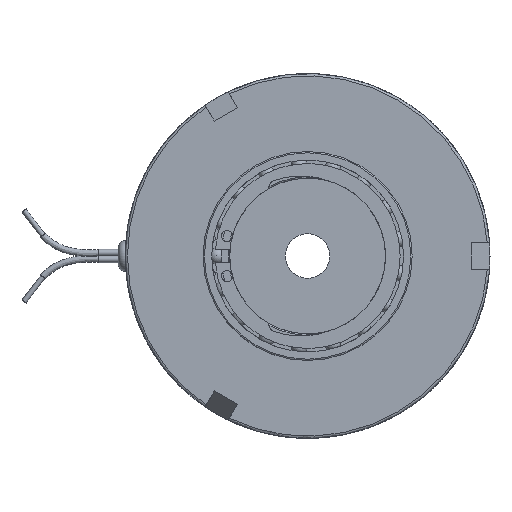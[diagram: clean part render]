
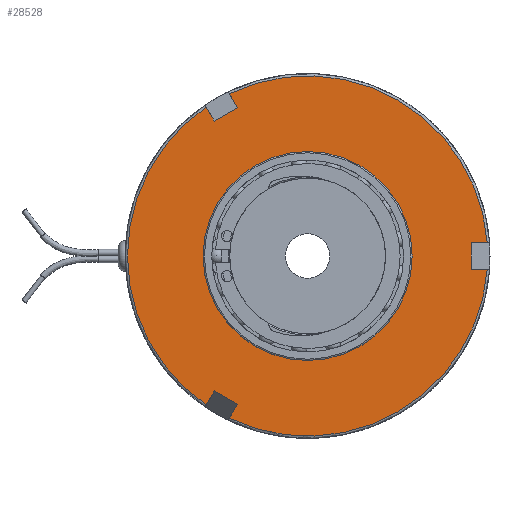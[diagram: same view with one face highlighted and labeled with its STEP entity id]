
A CAD part, left-side view. The second image highlights one B-rep face of the part: STEP entity #28528.
In plain terms, the highlighted planar face has unit normal (-1, 0, 0).
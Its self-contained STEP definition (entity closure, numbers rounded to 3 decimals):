
#1954=FACE_BOUND('',#6813,.T.);
#2197=LINE('',#46997,#3685);
#2198=LINE('',#47022,#3686);
#2201=LINE('',#47028,#3689);
#2204=LINE('',#47036,#3692);
#2205=LINE('',#47061,#3693);
#2208=LINE('',#47067,#3696);
#2209=LINE('',#47072,#3697);
#2210=LINE('',#47074,#3698);
#2211=LINE('',#47076,#3699);
#3685=VECTOR('',#34926,3.631);
#3686=VECTOR('',#34929,3.631);
#3689=VECTOR('',#34936,6.);
#3692=VECTOR('',#34941,3.631);
#3693=VECTOR('',#34944,3.631);
#3696=VECTOR('',#34951,6.);
#3697=VECTOR('',#34956,3.631);
#3698=VECTOR('',#34957,6.);
#3699=VECTOR('',#34958,3.631);
#5247=FACE_OUTER_BOUND('',#6812,.T.);
#6812=EDGE_LOOP('',(#17582,#17583,#17584,#17585,#17586,#17587,#17588,#17589,
#17590,#17591,#17592,#17593));
#6813=EDGE_LOOP('',(#17594));
#8519=CIRCLE('',#30158,23.5);
#8594=CIRCLE('',#30285,40.5);
#8595=CIRCLE('',#30286,40.5);
#8596=CIRCLE('',#30287,40.5);
#9744=VERTEX_POINT('',#46585);
#9806=VERTEX_POINT('',#46994);
#9807=VERTEX_POINT('',#46996);
#9808=VERTEX_POINT('',#47009);
#9810=VERTEX_POINT('',#47021);
#9814=VERTEX_POINT('',#47033);
#9815=VERTEX_POINT('',#47035);
#9816=VERTEX_POINT('',#47048);
#9818=VERTEX_POINT('',#47060);
#9820=VERTEX_POINT('',#47069);
#9821=VERTEX_POINT('',#47071);
#9822=VERTEX_POINT('',#47073);
#9823=VERTEX_POINT('',#47075);
#12728=EDGE_CURVE('',#9744,#9744,#8519,.T.);
#12838=EDGE_CURVE('',#9807,#9806,#2197,.T.);
#12841=EDGE_CURVE('',#9810,#9808,#2198,.T.);
#12845=EDGE_CURVE('',#9806,#9810,#2201,.T.);
#12848=EDGE_CURVE('',#9815,#9814,#2204,.T.);
#12851=EDGE_CURVE('',#9818,#9816,#2205,.T.);
#12855=EDGE_CURVE('',#9814,#9818,#2208,.T.);
#12856=EDGE_CURVE('',#9820,#9808,#8594,.T.);
#12857=EDGE_CURVE('',#9820,#9821,#2209,.T.);
#12858=EDGE_CURVE('',#9821,#9822,#2210,.T.);
#12859=EDGE_CURVE('',#9822,#9823,#2211,.T.);
#12860=EDGE_CURVE('',#9815,#9823,#8595,.T.);
#12861=EDGE_CURVE('',#9807,#9816,#8596,.T.);
#17582=ORIENTED_EDGE('',*,*,#12838,.T.);
#17583=ORIENTED_EDGE('',*,*,#12845,.T.);
#17584=ORIENTED_EDGE('',*,*,#12841,.T.);
#17585=ORIENTED_EDGE('',*,*,#12856,.F.);
#17586=ORIENTED_EDGE('',*,*,#12857,.T.);
#17587=ORIENTED_EDGE('',*,*,#12858,.T.);
#17588=ORIENTED_EDGE('',*,*,#12859,.T.);
#17589=ORIENTED_EDGE('',*,*,#12860,.F.);
#17590=ORIENTED_EDGE('',*,*,#12848,.T.);
#17591=ORIENTED_EDGE('',*,*,#12855,.T.);
#17592=ORIENTED_EDGE('',*,*,#12851,.T.);
#17593=ORIENTED_EDGE('',*,*,#12861,.F.);
#17594=ORIENTED_EDGE('',*,*,#12728,.F.);
#25609=PLANE('',#30284);
#28528=ADVANCED_FACE('',(#5247,#1954),#25609,.T.);
#30158=AXIS2_PLACEMENT_3D('',#46586,#34658,#34659);
#30284=AXIS2_PLACEMENT_3D('',#47068,#34952,#34953);
#30285=AXIS2_PLACEMENT_3D('',#47070,#34954,#34955);
#30286=AXIS2_PLACEMENT_3D('',#47077,#34959,#34960);
#30287=AXIS2_PLACEMENT_3D('',#47078,#34961,#34962);
#34658=DIRECTION('center_axis',(-1.,0.,0.));
#34659=DIRECTION('ref_axis',(0.,-1.,0.));
#34926=DIRECTION('',(0.,-0.5,0.866));
#34929=DIRECTION('',(0.,0.5,-0.866));
#34936=DIRECTION('',(0.,-0.866,-0.5));
#34941=DIRECTION('',(0.,-0.5,-0.866));
#34944=DIRECTION('',(0.,0.5,0.866));
#34951=DIRECTION('',(0.,0.866,-0.5));
#34952=DIRECTION('center_axis',(-1.,0.,0.));
#34953=DIRECTION('ref_axis',(0.,0.,-1.));
#34954=DIRECTION('center_axis',(1.,0.,0.));
#34955=DIRECTION('ref_axis',(0.,1.,0.));
#34956=DIRECTION('',(0.,1.,0.));
#34957=DIRECTION('',(0.,0.,1.));
#34958=DIRECTION('',(0.,-1.,0.));
#34959=DIRECTION('center_axis',(1.,0.,0.));
#34960=DIRECTION('ref_axis',(0.,1.,0.));
#34961=DIRECTION('center_axis',(1.,0.,0.));
#34962=DIRECTION('ref_axis',(0.,1.,0.));
#46585=CARTESIAN_POINT('',(-18.25,-23.5,0.));
#46586=CARTESIAN_POINT('Origin',(-18.25,0.,0.));
#46994=CARTESIAN_POINT('',(-18.25,20.977,-30.333));
#46996=CARTESIAN_POINT('',(-18.25,22.792,-33.478));
#46997=CARTESIAN_POINT('',(-18.25,8.442,-8.622));
#47009=CARTESIAN_POINT('',(-18.25,17.596,-36.478));
#47021=CARTESIAN_POINT('',(-18.25,15.781,-33.333));
#47022=CARTESIAN_POINT('',(-18.25,3.246,-11.622));
#47028=CARTESIAN_POINT('',(-18.25,6.285,-38.815));
#47033=CARTESIAN_POINT('',(-18.25,15.781,33.333));
#47035=CARTESIAN_POINT('',(-18.25,17.596,36.478));
#47036=CARTESIAN_POINT('',(-18.25,3.246,11.622));
#47048=CARTESIAN_POINT('',(-18.25,22.792,33.478));
#47060=CARTESIAN_POINT('',(-18.25,20.977,30.333));
#47061=CARTESIAN_POINT('',(-18.25,8.442,8.622));
#47067=CARTESIAN_POINT('',(-18.25,6.285,38.815));
#47068=CARTESIAN_POINT('Origin',(-18.25,-32.25,0.));
#47069=CARTESIAN_POINT('',(-18.25,-40.389,-3.));
#47070=CARTESIAN_POINT('Origin',(-18.25,0.,0.));
#47071=CARTESIAN_POINT('',(-18.25,-36.757,-3.));
#47072=CARTESIAN_POINT('',(-18.25,-35.875,-3.));
#47073=CARTESIAN_POINT('',(-18.25,-36.757,3.));
#47074=CARTESIAN_POINT('',(-18.25,-36.757,0.));
#47075=CARTESIAN_POINT('',(-18.25,-40.389,3.));
#47076=CARTESIAN_POINT('',(-18.25,-35.875,3.));
#47077=CARTESIAN_POINT('Origin',(-18.25,0.,0.));
#47078=CARTESIAN_POINT('Origin',(-18.25,0.,0.));
